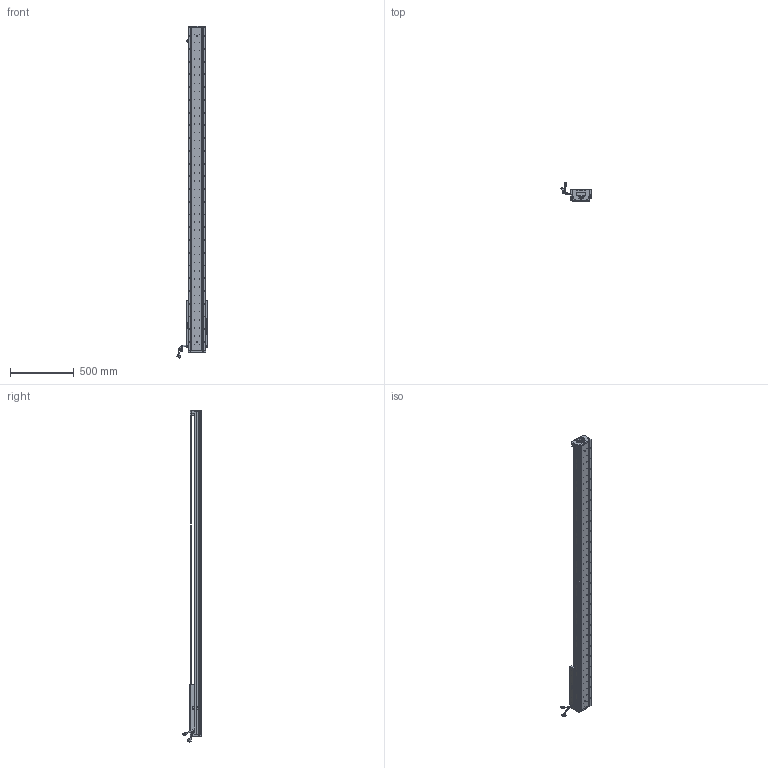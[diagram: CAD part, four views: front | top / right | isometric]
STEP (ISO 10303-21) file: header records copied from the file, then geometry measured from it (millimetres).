
FILE_DESCRIPTION (( 'STEP AP203' ), '1' );
FILE_NAME ('Z5-RY140D-1-L500-B-K.SLDASM_2100.step', '2021-05-17T08:38:50', ( '盈信电脑' ), ( '东莞市道滘镇水果街19号' ), 'SwSTEP 2.0', 'SolidWorks 2016', '' );
FILE_SCHEMA (( 'CONFIG_CONTROL_DESIGN' ));
Length unit declared in the file: millimetre
Products named in the file (36): 榋妏寠巭燃_暯_M2_2; 140-Z-臏賑輸盄裔(21遴); SCALE; Z5-RY140-L500直线电机模组底座_2100; HARNESS; HARNESS-Part-1; 詩湍狟揤裔; 140雄赽晤鎢ん堤盄; SEAL; Z5-RY140-L500詩湍100mm遵_2100; Z-140詩湍傷裔啣; HOLDER0; SHIELDPLATE; PSLH080_PSLF2; SCREW-M1.7-1; 覜茼ん672; SCREW-M1.6-3; SCREW-M1.6-1; Z5-RY140D-1-L500-B-K.SLDASM_2100; COVER; SCALE-Part-2; 080黍杅芛假蚾釱21遴; SCREW-M1.7; HARNESS-Part-2; SCALE-Part-1; PBU_SHEET; Z-RY140感应器672光电感应片; LABEL-Part-1; 詩湍奻揤裔; LABEL; SCREW-M1.6; COVER-Part-1; 140蚥薯蝶輸; SCREW-M1.6-2; Z5-RY140圉猾敕臏賑輸(21遴); SEAL-Part-1
Assembly tree (41 placements, depth 4):
  Z5-RY140D-1-L500-B-K.SLDASM_2100
    Z5-RY140-L500直线电机模组底座_2100
    Z-RY140感应器672光电感应片
    Z5-RY140圉猾敕臏賑輸(21遴)
    覜茼ん672  x3
    Z5-RY140-L500詩湍100mm遵_2100
    PSLH080_PSLF2
      SCALE
        SCALE-Part-1
        SCALE-Part-2
      HARNESS
        HARNESS-Part-1
        HARNESS-Part-2
      LABEL
        LABEL-Part-1
      COVER
        COVER-Part-1
      SEAL
        SEAL-Part-1
      榋妏寠巭燃_暯_M2_2
      SHIELDPLATE
      SCREW-M1.7
      SCREW-M1.7-1
      PBU_SHEET
      SCREW-M1.6
      SCREW-M1.6-1
      SCREW-M1.6-2
      SCREW-M1.6-3
      HOLDER0
    080黍杅芛假蚾釱21遴
    140-Z-臏賑輸盄裔(21遴)
    Z-140詩湍傷裔啣  x2
    詩湍狟揤裔  x2
    詩湍奻揤裔  x2
    140蚥薯蝶輸  x2
    140雄赽晤鎢ん堤盄
Bounding box: 239.79 x 143.88 x 2605.87 mm (x, y, z)
Volume: 8766502.5 mm3; surface area: 2243363.9 mm2
Topology: 36 solids, 36 shells, 4124 faces, 11196 edges, 7093 vertices
Faces by surface type: cylinder 2234, plane 1366, cone 402, torus 69, bspline 53
Entity records: 130432 total; most frequent: CARTESIAN_POINT 36457, ORIENTED_EDGE 19312, DIRECTION 18024, EDGE_CURVE 9656, AXIS2_PLACEMENT_3D 6724, VERTEX_POINT 6261, LINE 4576, VECTOR 4576
